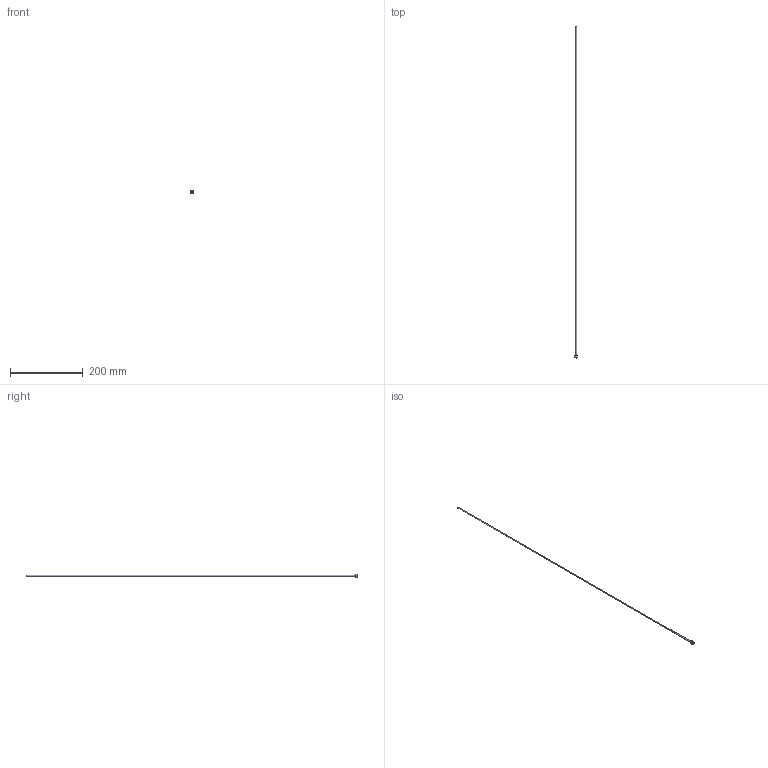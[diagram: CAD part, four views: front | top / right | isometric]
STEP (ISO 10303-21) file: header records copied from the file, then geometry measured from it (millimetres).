
FILE_DESCRIPTION(/* description */ (''),/* implementation_level */ '2;1');
FILE_NAME(/* name */ 'C:/Users/drich/Desktop/PT18-125-36 v1.step',/* time_stamp */ '2019-12-27T15:42:36-06:00',/* author */ (''),/* organization */ (''),/* preprocessor_version */ 'ST-DEVELOPER v18',/* originating_system */ 'Autodesk Translation Framework v8.12.0.6',/* authorisation */ '');
FILE_SCHEMA (('AUTOMOTIVE_DESIGN { 1 0 10303 214 3 1 1 }'));
Length unit declared in the file: inch
Products named in the file (1): PT18-125-36
Bounding box: 9.62 x 914.4 x 9.62 mm (x, y, z)
Volume: 1994.1 mm3; surface area: 17296.1 mm2
Topology: 1 solids, 1 shells, 19 faces, 48 edges, 34 vertices
Faces by surface type: plane 11, cylinder 4, torus 2, cone 2
Full cylindrical faces by diameter (mm): 2.769 x1, 3.15 x1, 5.156 x1, 9.621 x1
Entity records: 633 total; most frequent: DIRECTION 112, CARTESIAN_POINT 102, ORIENTED_EDGE 96, EDGE_CURVE 48, AXIS2_PLACEMENT_3D 44, VERTEX_POINT 34, CIRCLE 24, EDGE_LOOP 24
